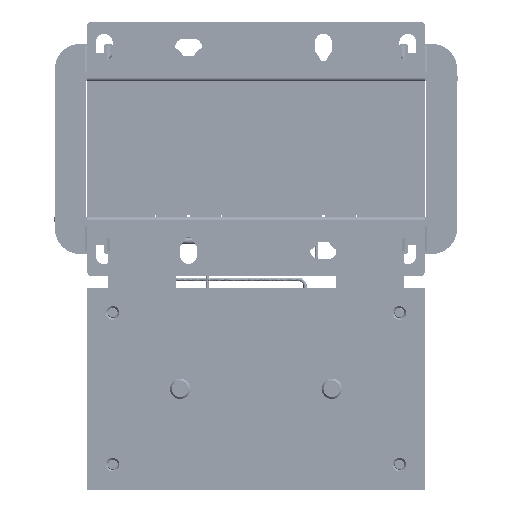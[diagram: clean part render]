
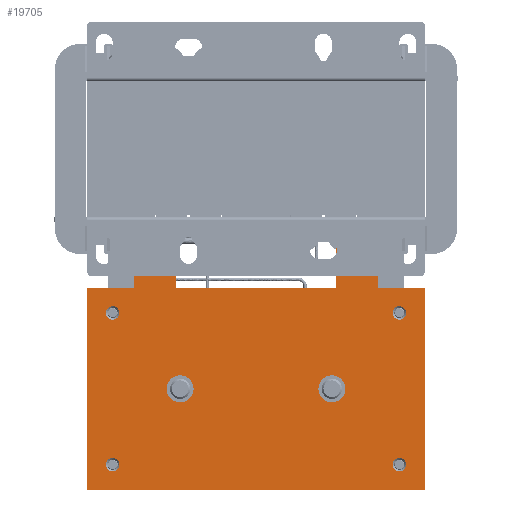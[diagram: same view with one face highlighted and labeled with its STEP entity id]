
A CAD part, front view. The second image highlights one B-rep face of the part: STEP entity #19705.
In plain terms, the highlighted planar face has unit normal (0, -1, 0) as drawn and (0, 0, 1) by its records, which use the part's own axes.
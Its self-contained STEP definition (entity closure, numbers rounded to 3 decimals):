
#19705=ADVANCED_FACE('',(#35444,#35446,#35448,#35450,#35452,#35454,#35456),#35458,
.T.);
#35444=FACE_BOUND('',#35445,.T.);
#35445=EDGE_LOOP('',(#53463,#53464,#53465,#53466,#53467,#53468,#53469,#53470,#53471,
#53472,#53473,#53474));
#35446=FACE_BOUND('',#35447,.T.);
#35447=EDGE_LOOP('',(#53475));
#35448=FACE_BOUND('',#35449,.T.);
#35449=EDGE_LOOP('',(#53476));
#35450=FACE_BOUND('',#35451,.T.);
#35451=EDGE_LOOP('',(#53477));
#35452=FACE_BOUND('',#35453,.T.);
#35453=EDGE_LOOP('',(#53478));
#35454=FACE_BOUND('',#35455,.T.);
#35455=EDGE_LOOP('',(#53479));
#35456=FACE_BOUND('',#35457,.T.);
#35457=EDGE_LOOP('',(#53480));
#35458=PLANE('',#35459);
#35459=AXIS2_PLACEMENT_3D('',#35460,#35461,#35462);
#35460=CARTESIAN_POINT('',(0.,0.,3.));
#35461=DIRECTION('',(0.,0.,1.));
#35462=DIRECTION('',(1.,0.,0.));
#53463=ORIENTED_EDGE('',*,*,#58972,.T.);
#53464=ORIENTED_EDGE('',*,*,#58976,.T.);
#53465=ORIENTED_EDGE('',*,*,#58978,.T.);
#53466=ORIENTED_EDGE('',*,*,#58963,.T.);
#53467=ORIENTED_EDGE('',*,*,#58982,.T.);
#53468=ORIENTED_EDGE('',*,*,#58983,.T.);
#53469=ORIENTED_EDGE('',*,*,#58984,.T.);
#53470=ORIENTED_EDGE('',*,*,#58969,.T.);
#53471=ORIENTED_EDGE('',*,*,#58985,.T.);
#53472=ORIENTED_EDGE('',*,*,#58986,.T.);
#53473=ORIENTED_EDGE('',*,*,#58987,.T.);
#53474=ORIENTED_EDGE('',*,*,#58979,.T.);
#53475=ORIENTED_EDGE('',*,*,#58954,.F.);
#53476=ORIENTED_EDGE('',*,*,#58955,.F.);
#53477=ORIENTED_EDGE('',*,*,#58956,.F.);
#53478=ORIENTED_EDGE('',*,*,#58957,.F.);
#53479=ORIENTED_EDGE('',*,*,#58958,.F.);
#53480=ORIENTED_EDGE('',*,*,#58960,.F.);
#58954=EDGE_CURVE('',#65862,#65862,#65863,.T.);
#58955=EDGE_CURVE('',#65864,#65864,#65865,.T.);
#58956=EDGE_CURVE('',#65866,#65866,#65867,.T.);
#58957=EDGE_CURVE('',#65868,#65868,#65869,.T.);
#58958=EDGE_CURVE('',#65870,#65870,#65871,.T.);
#58960=EDGE_CURVE('',#65874,#65874,#65875,.T.);
#58963=EDGE_CURVE('',#65881,#65878,#65882,.T.);
#58969=EDGE_CURVE('',#65886,#65891,#65893,.T.);
#58972=EDGE_CURVE('',#65899,#65897,#65900,.T.);
#58976=EDGE_CURVE('',#65897,#65904,#65906,.T.);
#58978=EDGE_CURVE('',#65904,#65881,#65908,.T.);
#58979=EDGE_CURVE('',#65909,#65899,#65910,.T.);
#58982=EDGE_CURVE('',#65878,#65914,#65915,.T.);
#58983=EDGE_CURVE('',#65914,#65916,#65917,.T.);
#58984=EDGE_CURVE('',#65916,#65886,#65918,.T.);
#58985=EDGE_CURVE('',#65891,#65919,#65920,.T.);
#58986=EDGE_CURVE('',#65919,#65921,#65922,.T.);
#58987=EDGE_CURVE('',#65921,#65909,#65923,.T.);
#65862=VERTEX_POINT('',#89953);
#65863=CIRCLE('',#89954,4.);
#65864=VERTEX_POINT('',#89958);
#65865=CIRCLE('',#89959,4.);
#65866=VERTEX_POINT('',#89963);
#65867=CIRCLE('',#89964,4.);
#65868=VERTEX_POINT('',#89968);
#65869=CIRCLE('',#89969,4.);
#65870=VERTEX_POINT('',#89973);
#65871=CIRCLE('',#89974,8.);
#65874=VERTEX_POINT('',#89983);
#65875=CIRCLE('',#89984,8.);
#65878=VERTEX_POINT('',#89993);
#65881=VERTEX_POINT('',#89998);
#65882=LINE('',#89999,#90000);
#65886=VERTEX_POINT('',#90009);
#65891=VERTEX_POINT('',#90018);
#65893=LINE('',#90022,#90023);
#65897=VERTEX_POINT('',#90030);
#65899=VERTEX_POINT('',#90034);
#65900=LINE('',#90035,#90036);
#65904=VERTEX_POINT('',#90045);
#65906=LINE('',#90049,#90050);
#65908=LINE('',#90055,#90056);
#65909=VERTEX_POINT('',#90058);
#65910=LINE('',#90059,#90060);
#65914=VERTEX_POINT('',#90069);
#65915=LINE('',#90070,#90071);
#65916=VERTEX_POINT('',#90073);
#65917=LINE('',#90074,#90075);
#65918=LINE('',#90077,#90078);
#65919=VERTEX_POINT('',#90080);
#65920=LINE('',#90081,#90082);
#65921=VERTEX_POINT('',#90084);
#65922=LINE('',#90085,#90086);
#65923=LINE('',#90088,#90089);
#89953=CARTESIAN_POINT('',(81.,-45.,3.));
#89954=AXIS2_PLACEMENT_3D('',#89955,#89956,#89957);
#89955=CARTESIAN_POINT('',(85.,-45.,3.));
#89956=DIRECTION('',(0.,0.,1.));
#89957=DIRECTION('',(1.,0.,0.));
#89958=CARTESIAN_POINT('',(81.,45.,3.));
#89959=AXIS2_PLACEMENT_3D('',#89960,#89961,#89962);
#89960=CARTESIAN_POINT('',(85.,45.,3.));
#89961=DIRECTION('',(0.,0.,1.));
#89962=DIRECTION('',(1.,0.,0.));
#89963=CARTESIAN_POINT('',(-89.,-45.,3.));
#89964=AXIS2_PLACEMENT_3D('',#89965,#89966,#89967);
#89965=CARTESIAN_POINT('',(-85.,-45.,3.));
#89966=DIRECTION('',(0.,0.,1.));
#89967=DIRECTION('',(1.,0.,0.));
#89968=CARTESIAN_POINT('',(-89.,45.,3.));
#89969=AXIS2_PLACEMENT_3D('',#89970,#89971,#89972);
#89970=CARTESIAN_POINT('',(-85.,45.,3.));
#89971=DIRECTION('',(0.,0.,1.));
#89972=DIRECTION('',(1.,0.,0.));
#89973=CARTESIAN_POINT('',(-37.,0.,3.));
#89974=AXIS2_PLACEMENT_3D('',#89975,#89976,#89977);
#89975=CARTESIAN_POINT('',(-45.,0.,3.));
#89976=DIRECTION('',(0.,0.,1.));
#89977=DIRECTION('',(-1.,0.,0.));
#89983=CARTESIAN_POINT('',(53.,0.,3.));
#89984=AXIS2_PLACEMENT_3D('',#89985,#89986,#89987);
#89985=CARTESIAN_POINT('',(45.,0.,3.));
#89986=DIRECTION('',(0.,0.,1.));
#89987=DIRECTION('',(-1.,0.,0.));
#89993=CARTESIAN_POINT('',(-72.5,-60.,3.));
#89998=CARTESIAN_POINT('',(-100.,-60.,3.));
#89999=CARTESIAN_POINT('',(-100.,-60.,3.));
#90000=VECTOR('',#90001,1.);
#90001=DIRECTION('',(1.,0.,0.));
#90009=CARTESIAN_POINT('',(-47.5,-60.,3.));
#90018=CARTESIAN_POINT('',(47.5,-60.,3.));
#90022=CARTESIAN_POINT('',(-47.5,-60.,3.));
#90023=VECTOR('',#90024,1.);
#90024=DIRECTION('',(1.,0.,0.));
#90030=CARTESIAN_POINT('',(100.,60.,3.));
#90034=CARTESIAN_POINT('',(100.,-60.,3.));
#90035=CARTESIAN_POINT('',(100.,-60.,3.));
#90036=VECTOR('',#90037,1.);
#90037=DIRECTION('',(0.,1.,0.));
#90045=CARTESIAN_POINT('',(-100.,60.,3.));
#90049=CARTESIAN_POINT('',(100.,60.,3.));
#90050=VECTOR('',#90051,1.);
#90051=DIRECTION('',(-1.,0.,0.));
#90055=CARTESIAN_POINT('',(-100.,60.,3.));
#90056=VECTOR('',#90057,1.);
#90057=DIRECTION('',(0.,-1.,0.));
#90058=CARTESIAN_POINT('',(72.5,-60.,3.));
#90059=CARTESIAN_POINT('',(72.5,-60.,3.));
#90060=VECTOR('',#90061,1.);
#90061=DIRECTION('',(1.,0.,0.));
#90069=CARTESIAN_POINT('',(-72.5,-100.,3.));
#90070=CARTESIAN_POINT('',(-72.5,-60.,3.));
#90071=VECTOR('',#90072,1.);
#90072=DIRECTION('',(0.,-1.,0.));
#90073=CARTESIAN_POINT('',(-47.5,-100.,3.));
#90074=CARTESIAN_POINT('',(-72.5,-100.,3.));
#90075=VECTOR('',#90076,1.);
#90076=DIRECTION('',(1.,0.,0.));
#90077=CARTESIAN_POINT('',(-47.5,-100.,3.));
#90078=VECTOR('',#90079,1.);
#90079=DIRECTION('',(0.,1.,0.));
#90080=CARTESIAN_POINT('',(47.5,-100.,3.));
#90081=CARTESIAN_POINT('',(47.5,-60.,3.));
#90082=VECTOR('',#90083,1.);
#90083=DIRECTION('',(0.,-1.,0.));
#90084=CARTESIAN_POINT('',(72.5,-100.,3.));
#90085=CARTESIAN_POINT('',(47.5,-100.,3.));
#90086=VECTOR('',#90087,1.);
#90087=DIRECTION('',(1.,0.,0.));
#90088=CARTESIAN_POINT('',(72.5,-100.,3.));
#90089=VECTOR('',#90090,1.);
#90090=DIRECTION('',(0.,1.,0.));
